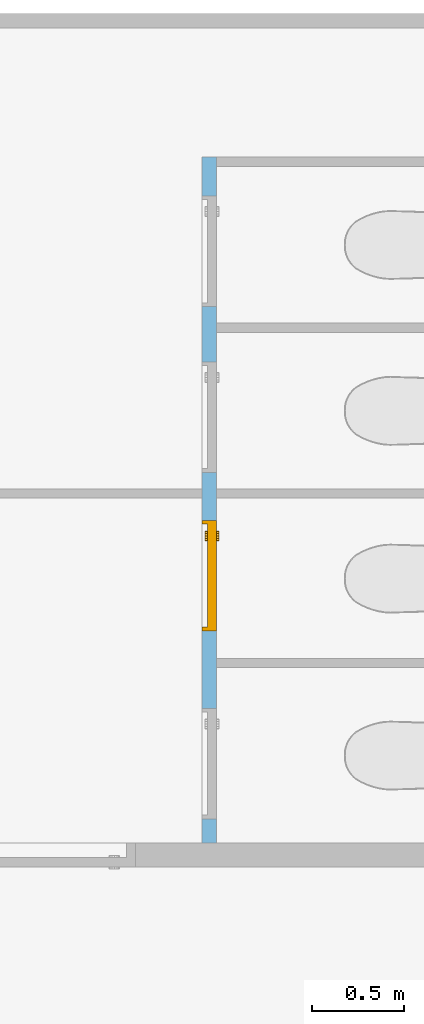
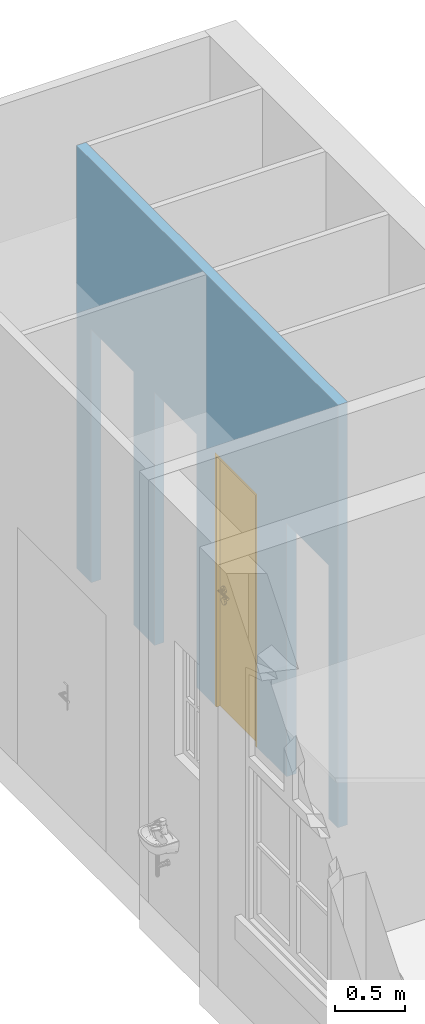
"""IFC4 building model written with IfcOpenShell, lengths in metres."""

from ifc_helpers import new_model, entity, si_unit, converted_unit, derived_unit, frame, frame_2d, origin, origin_with_axes, place, context, subcontext, project, spatial, polyline, rectangle, outline, extrude, faceted_brep, source, transform, mapped, material, layer, layer_set, layer_usage, type_object, element, fill, save


model = new_model("IFC4")

# Units and contexts
model_context = context("Model", 3, precision=1e-05, world=origin())
body_context = subcontext(model_context, "Body", "Model", "MODEL_VIEW")
ifc_project = project(units=[si_unit("LENGTHUNIT", "METRE"), si_unit("AREAUNIT", "SQUARE_METRE"), si_unit("VOLUMEUNIT", "CUBIC_METRE"), si_unit("MASSUNIT", "GRAM", prefix="KILO"), converted_unit("PLANEANGLEUNIT", "DEGREE", entity("IfcPlaneAngleMeasure", 0.0174532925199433), si_unit("PLANEANGLEUNIT", "RADIAN"), dimensions=[0, 0, 0, 0, 0, 0, 0]), derived_unit("THERMALTRANSMITTANCEUNIT", [(si_unit("POWERUNIT", "WATT"), 1), (si_unit("THERMODYNAMICTEMPERATUREUNIT", "KELVIN"), -1), (si_unit("LENGTHUNIT", "METRE"), -2)]), derived_unit("VOLUMETRICFLOWRATEUNIT", [(si_unit("LENGTHUNIT", "METRE"), 3), (converted_unit("TIMEUNIT", "hour", entity("IfcTimeMeasure", 3600.0), si_unit("TIMEUNIT", "SECOND"), dimensions=[0, 0, 1, 0, 0, 0, 0]), -1), (si_unit("LENGTHUNIT", "METRE"), -1)])], contexts=[model_context])

# Building, storeys
building_placement = place(None, origin())
building = spatial("IfcBuilding", under=ifc_project, at=building_placement, Name="Bestandsgebäude A - Sporthalle / Wohnhaus (TB 100-499)   ANPASSEN !!!", CompositionType="ELEMENT")
storey_1_placement = place(building_placement, origin())
storey_1 = spatial("IfcBuildingStorey", under=building, at=storey_1_placement, Name="Geb. A Erdgeschoss (TB 200-249)", CompositionType="ELEMENT", Elevation=0.0)
storey_2_placement = place(storey_1_placement, origin())
storey_2 = spatial("IfcBuildingStorey", under=storey_1, at=storey_2_placement, Name="Architektur (TB 200-209)", CompositionType="PARTIAL")

# Wall, openings, door
ifc_material = material(Name="masonry")
ifc_layer = layer(ifc_material, 0.08)
ifc_layer_set = layer_set([ifc_layer])
ifc_layer_usage = layer_usage(ifc_layer_set, "AXIS2", "POSITIVE", 0.0)
wall_placement = place(storey_2_placement, frame((-1.75999999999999, 20.98, 0.0), z_axis=(0.0, 0.0, 1.0), x_axis=(0.0, -1.0, 0.0)))
wall = element("IfcWall", 1, at=wall_placement, inside=storey_2, material=ifc_layer_usage, Name="masonry load-bearing", PredefinedType="USERDEFINED", context=body_context, shape_type="SweptSolid", body=[
    extrude(rectangle(XDim=3.72000000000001, YDim=0.08, at=frame_2d((1.86, 0.04), x_axis=(1.0, 0.0))), origin_with_axes(), (0.0, 0.0, 1.0), 3.67),
])
opening_1_placement = place(wall_placement, frame((0.210000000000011, 0.0, 0.0), z_axis=(0.0, 1.0, 0.0), x_axis=(0.0, 0.0, 1.0)))
element("IfcOpeningElement", 2, at=opening_1_placement, cuts=wall, Name="Door opening", PredefinedType="OPENING", context=body_context, shape_type="SweptSolid", body=[
    extrude(outline(polyline([(2.2, 0.6), (2.2, 0.0), (0.0, 0.0), (0.0, 0.6), (2.2, 0.6)])), origin_with_axes(), (0.0, 0.0, 1.0), 0.08),
])
opening_2_placement = place(wall_placement, frame((1.11000000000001, 0.0, 0.0), z_axis=(0.0, 1.0, 0.0), x_axis=(0.0, 0.0, 1.0)))
element("IfcOpeningElement", 3, at=opening_2_placement, cuts=wall, Name="Door opening", PredefinedType="OPENING", context=body_context, shape_type="SweptSolid", body=[
    extrude(outline(polyline([(2.2, 0.6), (2.2, 0.0), (0.0, 0.0), (0.0, 0.6), (2.2, 0.6)])), origin_with_axes(), (0.0, 0.0, 1.0), 0.08),
])
opening_3_placement = place(wall_placement, frame((2.99000000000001, 0.0, 0.0), z_axis=(0.0, 1.0, 0.0), x_axis=(0.0, 0.0, 1.0)))
element("IfcOpeningElement", 4, at=opening_3_placement, cuts=wall, Name="Door opening", PredefinedType="OPENING", context=body_context, shape_type="SweptSolid", body=[
    extrude(outline(polyline([(2.2, 0.6), (2.2, 0.0), (0.0, 0.0), (0.0, 0.6), (2.2, 0.6)])), origin_with_axes(), (0.0, 0.0, 1.0), 0.08),
])
opening_4_placement = place(wall_placement, frame((1.97000000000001, 0.0, 0.0), z_axis=(0.0, 1.0, 0.0), x_axis=(0.0, 0.0, 1.0)))
opening_4 = element("IfcOpeningElement", 5, at=opening_4_placement, cuts=wall, Name="Door opening", PredefinedType="OPENING", context=body_context, shape_type="SweptSolid", body=[
    extrude(outline(polyline([(2.2, 0.6), (2.2, 0.0), (0.0, 0.0), (0.0, 0.6), (2.2, 0.6)])), origin_with_axes(), (0.0, 0.0, 1.0), 0.08),
])
door_type = type_object("IfcDoorType", Name="door", OperationType="SINGLE_SWING_RIGHT", ParameterTakesPrecedence=False, PredefinedType="DOOR")
shared_shape = source(origin_with_axes(), body_context, "Body", "Brep", [
    faceted_brep([(0.0, 0.0800000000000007, 2.2), (0.0, 0.0800000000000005, 0.0), (0.0200000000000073, 0.0800000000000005, 0.0), (0.0200000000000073, 0.0800000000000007, 2.2), (0.0, 0.0, 0.0), (0.0, 0.0, 2.2), (0.0200000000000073, 0.0, 2.2), (0.0200000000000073, 0.0, 0.0)], [[[0, 1, 2, 3]], [[4, 5, 6, 7]], [[1, 0, 5, 4]], [[2, 1, 4, 7]], [[3, 2, 7, 6]], [[0, 3, 6, 5]]], orient=[[False], [False], [False], [False], [False], [False]]),
    faceted_brep([(0.580000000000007, 0.0800000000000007, 2.2), (0.580000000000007, 0.0800000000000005, 0.0), (0.600000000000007, 0.0800000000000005, 0.0), (0.600000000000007, 0.0800000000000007, 2.2), (0.580000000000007, 0.0, 0.0), (0.580000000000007, 0.0, 2.2), (0.600000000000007, 0.0, 2.2), (0.600000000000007, 0.0, 0.0)], [[[0, 1, 2, 3]], [[4, 5, 6, 7]], [[1, 0, 5, 4]], [[2, 1, 4, 7]], [[3, 2, 7, 6]], [[0, 3, 6, 5]]], orient=[[False], [False], [False], [False], [False], [False]]),
    faceted_brep([(0.0200000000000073, 0.0800000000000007, 2.2), (0.0200000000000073, 0.0800000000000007, 2.18), (0.580000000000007, 0.0800000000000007, 2.18), (0.580000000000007, 0.0800000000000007, 2.2), (0.0200000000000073, 0.0, 2.18), (0.0200000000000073, 0.0, 2.2), (0.580000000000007, 0.0, 2.2), (0.580000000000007, 0.0, 2.18)], [[[0, 1, 2, 3]], [[4, 5, 6, 7]], [[1, 0, 5, 4]], [[2, 1, 4, 7]], [[3, 2, 7, 6]], [[0, 3, 6, 5]]], orient=[[False], [False], [False], [False], [False], [False]]),
    faceted_brep([(0.0200000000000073, 0.0800000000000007, 2.18), (0.0200000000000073, 0.0800000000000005, 0.0), (0.580000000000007, 0.0800000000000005, 0.0), (0.580000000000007, 0.0800000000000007, 2.18), (0.0200000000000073, 0.0300000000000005, 0.0), (0.0200000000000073, 0.0300000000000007, 2.18), (0.580000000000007, 0.0300000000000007, 2.18), (0.580000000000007, 0.0300000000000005, 0.0)], [[[0, 1, 2, 3]], [[4, 5, 6, 7]], [[1, 0, 5, 4]], [[2, 1, 4, 7]], [[3, 2, 7, 6]], [[0, 3, 6, 5]]], orient=[[False], [False], [False], [False], [False], [False]]),
    faceted_brep([(0.108815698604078, 0.0300000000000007, 0.93625), (0.112500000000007, 0.0300000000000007, 0.95), (0.108815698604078, 0.0300000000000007, 0.96375), (0.0987500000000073, 0.0300000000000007, 0.973815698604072), (0.0850000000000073, 0.0300000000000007, 0.9775), (0.0712500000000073, 0.0300000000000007, 0.973815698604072), (0.0611843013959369, 0.0300000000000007, 0.96375), (0.0575000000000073, 0.0300000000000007, 0.95), (0.0611843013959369, 0.0300000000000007, 0.93625), (0.0712500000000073, 0.0300000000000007, 0.926184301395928), (0.0850000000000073, 0.0300000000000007, 0.9225), (0.0987500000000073, 0.0300000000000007, 0.926184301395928), (0.112500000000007, 0.0175000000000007, 0.95), (0.108815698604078, 0.0175000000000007, 0.93625), (0.0987500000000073, 0.0175000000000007, 0.926184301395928), (0.0850000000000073, 0.0175000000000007, 0.9225), (0.0712500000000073, 0.0175000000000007, 0.926184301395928), (0.0611843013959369, 0.0175000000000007, 0.93625), (0.0575000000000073, 0.0175000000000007, 0.95), (0.0611843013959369, 0.0175000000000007, 0.96375), (0.0712500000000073, 0.0175000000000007, 0.973815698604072), (0.0850000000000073, 0.0175000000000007, 0.9775), (0.0987500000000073, 0.0175000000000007, 0.973815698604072), (0.108815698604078, 0.0175000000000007, 0.96375)], [[[0, 1, 2, 3, 4, 5, 6, 7, 8, 9, 10, 11]], [[12, 13, 14, 15, 16, 17, 18, 19, 20, 21, 22, 23]], [[1, 0, 13, 12]], [[2, 1, 12, 23]], [[3, 2, 23, 22]], [[4, 3, 22, 21]], [[5, 4, 21, 20]], [[6, 5, 20, 19]], [[7, 6, 19, 18]], [[8, 7, 18, 17]], [[9, 8, 17, 16]], [[10, 9, 16, 15]], [[11, 10, 15, 14]], [[0, 11, 14, 13]]], orient=[[False], [False], [False], [False], [False], [False], [False], [False], [False], [False], [False], [False], [False], [False]]),
    faceted_brep([(0.108815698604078, 0.0300000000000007, 1.03625), (0.112500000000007, 0.0300000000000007, 1.05), (0.108815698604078, 0.0300000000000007, 1.06375), (0.0987500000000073, 0.0300000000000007, 1.07381569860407), (0.0850000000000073, 0.0300000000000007, 1.0775), (0.0712500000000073, 0.0300000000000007, 1.07381569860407), (0.0611843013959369, 0.0300000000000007, 1.06375), (0.0575000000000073, 0.0300000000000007, 1.05), (0.0611843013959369, 0.0300000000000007, 1.03625), (0.0712500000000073, 0.0300000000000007, 1.02618430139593), (0.0850000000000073, 0.0300000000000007, 1.0225), (0.0987500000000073, 0.0300000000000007, 1.02618430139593), (0.112500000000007, 0.0175000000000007, 1.05), (0.108815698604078, 0.0175000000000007, 1.03625), (0.0987500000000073, 0.0175000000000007, 1.02618430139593), (0.0850000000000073, 0.0175000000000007, 1.0225), (0.0712500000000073, 0.0175000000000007, 1.02618430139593), (0.0611843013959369, 0.0175000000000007, 1.03625), (0.0575000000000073, 0.0175000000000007, 1.05), (0.0611843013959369, 0.0175000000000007, 1.06375), (0.0712500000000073, 0.0175000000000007, 1.07381569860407), (0.0850000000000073, 0.0175000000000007, 1.0775), (0.0987500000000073, 0.0175000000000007, 1.07381569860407), (0.108815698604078, 0.0175000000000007, 1.06375)], [[[0, 1, 2, 3, 4, 5, 6, 7, 8, 9, 10, 11]], [[12, 13, 14, 15, 16, 17, 18, 19, 20, 21, 22, 23]], [[1, 0, 13, 12]], [[2, 1, 12, 23]], [[3, 2, 23, 22]], [[4, 3, 22, 21]], [[5, 4, 21, 20]], [[6, 5, 20, 19]], [[7, 6, 19, 18]], [[8, 7, 18, 17]], [[9, 8, 17, 16]], [[10, 9, 16, 15]], [[11, 10, 15, 14]], [[0, 11, 14, 13]]], orient=[[False], [False], [False], [False], [False], [False], [False], [False], [False], [False], [False], [False], [False], [False]]),
    faceted_brep([(0.0850000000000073, 0.0300000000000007, 1.06), (0.0800000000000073, 0.0300000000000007, 1.05866025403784), (0.0763397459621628, 0.0300000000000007, 1.055), (0.0750000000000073, 0.0300000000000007, 1.05), (0.0763397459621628, 0.0300000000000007, 1.045), (0.0800000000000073, 0.0300000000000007, 1.04133974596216), (0.0850000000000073, 0.0300000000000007, 1.04), (0.0900000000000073, 0.0300000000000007, 1.04133974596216), (0.0936602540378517, 0.0300000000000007, 1.045), (0.0950000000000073, 0.0300000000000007, 1.05), (0.0936602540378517, 0.0300000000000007, 1.055), (0.0900000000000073, 0.0300000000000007, 1.05866025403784), (0.0850000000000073, -0.00999999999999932, 1.06), (0.0800000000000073, -0.0149999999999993, 1.05866025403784), (0.0763397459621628, -0.0186602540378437, 1.055), (0.0750000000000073, -0.0199999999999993, 1.05), (0.0763397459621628, -0.0186602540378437, 1.045), (0.0800000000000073, -0.0149999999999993, 1.04133974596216), (0.0850000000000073, -0.00999999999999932, 1.04), (0.0900000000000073, -0.00499999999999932, 1.04133974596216), (0.0936602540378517, -0.00133974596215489, 1.045), (0.0950000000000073, 0.0, 1.05), (0.0936602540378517, -0.00133974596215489, 1.055), (0.0900000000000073, -0.00499999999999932, 1.05866025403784), (0.200000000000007, -0.00999999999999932, 1.06), (0.200000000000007, -0.00499999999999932, 1.05866025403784), (0.200000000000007, -0.00133974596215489, 1.055), (0.200000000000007, 0.0, 1.05), (0.200000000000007, -0.00133974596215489, 1.045), (0.200000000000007, -0.00499999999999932, 1.04133974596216), (0.200000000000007, -0.00999999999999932, 1.04), (0.200000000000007, -0.0149999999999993, 1.04133974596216), (0.200000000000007, -0.0186602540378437, 1.045), (0.200000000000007, -0.0199999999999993, 1.05), (0.200000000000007, -0.0186602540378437, 1.055), (0.200000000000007, -0.0149999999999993, 1.05866025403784)], [[[0, 1, 2, 3, 4, 5, 6, 7, 8, 9, 10, 11]], [[0, 12, 13, 1]], [[1, 13, 14, 2]], [[2, 14, 15, 3]], [[3, 15, 16, 4]], [[4, 16, 17, 5]], [[5, 17, 18, 6]], [[6, 18, 19, 7]], [[7, 19, 20, 8]], [[8, 20, 21, 9]], [[9, 21, 22, 10]], [[10, 22, 23, 11]], [[11, 23, 12, 0]], [[24, 25, 26, 27, 28, 29, 30, 31, 32, 33, 34, 35]], [[12, 24, 35, 13]], [[13, 35, 34, 14]], [[14, 34, 33, 15]], [[15, 33, 32, 16]], [[16, 32, 31, 17]], [[17, 31, 30, 18]], [[18, 30, 29, 19]], [[19, 29, 28, 20]], [[20, 28, 27, 21]], [[21, 27, 26, 22]], [[22, 26, 25, 23]], [[23, 25, 24, 12]]], orient=[[False], [False], [False], [False], [False], [False], [False], [False], [False], [False], [False], [False], [False], [False], [False], [False], [False], [False], [False], [False], [False], [False], [False], [False], [False], [False]]),
    faceted_brep([(0.108815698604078, 0.0800000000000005, 0.93625), (0.0987500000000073, 0.0800000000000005, 0.926184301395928), (0.0850000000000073, 0.0800000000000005, 0.9225), (0.0712500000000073, 0.0800000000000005, 0.926184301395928), (0.0611843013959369, 0.0800000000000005, 0.93625), (0.0575000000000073, 0.0800000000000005, 0.95), (0.0611843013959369, 0.0800000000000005, 0.96375), (0.0712500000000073, 0.0800000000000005, 0.973815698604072), (0.0850000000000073, 0.0800000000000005, 0.9775), (0.0987500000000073, 0.0800000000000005, 0.973815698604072), (0.108815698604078, 0.0800000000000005, 0.96375), (0.112500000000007, 0.0800000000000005, 0.95), (0.112500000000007, 0.0925000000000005, 0.95), (0.108815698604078, 0.0925000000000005, 0.96375), (0.0987500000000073, 0.0925000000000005, 0.973815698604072), (0.0850000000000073, 0.0925000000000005, 0.9775), (0.0712500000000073, 0.0925000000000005, 0.973815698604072), (0.0611843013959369, 0.0925000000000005, 0.96375), (0.0575000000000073, 0.0925000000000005, 0.95), (0.0611843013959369, 0.0925000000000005, 0.93625), (0.0712500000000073, 0.0925000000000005, 0.926184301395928), (0.0850000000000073, 0.0925000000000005, 0.9225), (0.0987500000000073, 0.0925000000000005, 0.926184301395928), (0.108815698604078, 0.0925000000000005, 0.93625)], [[[0, 1, 2, 3, 4, 5, 6, 7, 8, 9, 10, 11]], [[12, 13, 14, 15, 16, 17, 18, 19, 20, 21, 22, 23]], [[11, 12, 23, 0]], [[10, 13, 12, 11]], [[9, 14, 13, 10]], [[8, 15, 14, 9]], [[7, 16, 15, 8]], [[6, 17, 16, 7]], [[5, 18, 17, 6]], [[4, 19, 18, 5]], [[3, 20, 19, 4]], [[2, 21, 20, 3]], [[1, 22, 21, 2]], [[0, 23, 22, 1]]], orient=[[False], [False], [False], [False], [False], [False], [False], [False], [False], [False], [False], [False], [False], [False]]),
    faceted_brep([(0.108815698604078, 0.0800000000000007, 1.03625), (0.0987500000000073, 0.0800000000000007, 1.02618430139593), (0.0850000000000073, 0.0800000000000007, 1.0225), (0.0712500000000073, 0.0800000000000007, 1.02618430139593), (0.0611843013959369, 0.0800000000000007, 1.03625), (0.0575000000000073, 0.0800000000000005, 1.05), (0.0611843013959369, 0.0800000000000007, 1.06375), (0.0712500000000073, 0.0800000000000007, 1.07381569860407), (0.0850000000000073, 0.0800000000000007, 1.0775), (0.0987500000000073, 0.0800000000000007, 1.07381569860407), (0.108815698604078, 0.0800000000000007, 1.06375), (0.112500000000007, 0.0800000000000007, 1.05), (0.112500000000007, 0.0925000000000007, 1.05), (0.108815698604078, 0.0925000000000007, 1.06375), (0.0987500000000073, 0.0925000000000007, 1.07381569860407), (0.0850000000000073, 0.0925000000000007, 1.0775), (0.0712500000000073, 0.0925000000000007, 1.07381569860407), (0.0611843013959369, 0.0925000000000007, 1.06375), (0.0575000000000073, 0.0925000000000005, 1.05), (0.0611843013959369, 0.0925000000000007, 1.03625), (0.0712500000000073, 0.0925000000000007, 1.02618430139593), (0.0850000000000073, 0.0925000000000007, 1.0225), (0.0987500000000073, 0.0925000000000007, 1.02618430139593), (0.108815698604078, 0.0925000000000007, 1.03625)], [[[0, 1, 2, 3, 4, 5, 6, 7, 8, 9, 10, 11]], [[12, 13, 14, 15, 16, 17, 18, 19, 20, 21, 22, 23]], [[11, 12, 23, 0]], [[10, 13, 12, 11]], [[9, 14, 13, 10]], [[8, 15, 14, 9]], [[7, 16, 15, 8]], [[6, 17, 16, 7]], [[5, 18, 17, 6]], [[4, 19, 18, 5]], [[3, 20, 19, 4]], [[2, 21, 20, 3]], [[1, 22, 21, 2]], [[0, 23, 22, 1]]], orient=[[False], [False], [False], [False], [False], [False], [False], [False], [False], [False], [False], [False], [False], [False]]),
    faceted_brep([(0.0850000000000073, 0.0800000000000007, 1.06), (0.0900000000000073, 0.0800000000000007, 1.05866025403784), (0.0936602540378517, 0.0800000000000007, 1.055), (0.0950000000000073, 0.0800000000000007, 1.05), (0.0936602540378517, 0.0800000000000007, 1.045), (0.0900000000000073, 0.0800000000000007, 1.04133974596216), (0.0850000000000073, 0.0800000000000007, 1.04), (0.0800000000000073, 0.0800000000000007, 1.04133974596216), (0.0763397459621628, 0.0800000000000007, 1.045), (0.0750000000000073, 0.0800000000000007, 1.05), (0.0763397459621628, 0.0800000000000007, 1.055), (0.0800000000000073, 0.0800000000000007, 1.05866025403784), (0.0800000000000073, 0.125, 1.05866025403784), (0.0850000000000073, 0.12, 1.06), (0.0763397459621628, 0.128660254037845, 1.055), (0.0750000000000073, 0.13, 1.05), (0.0763397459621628, 0.128660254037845, 1.045), (0.0800000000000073, 0.125, 1.04133974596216), (0.0850000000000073, 0.12, 1.04), (0.0900000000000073, 0.115, 1.04133974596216), (0.0936602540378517, 0.111339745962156, 1.045), (0.0950000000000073, 0.11, 1.05), (0.0936602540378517, 0.111339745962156, 1.055), (0.0900000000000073, 0.115, 1.05866025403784), (0.200000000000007, 0.120000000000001, 1.06), (0.200000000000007, 0.125000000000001, 1.05866025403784), (0.200000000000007, 0.128660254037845, 1.055), (0.200000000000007, 0.13, 1.05), (0.200000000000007, 0.128660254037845, 1.045), (0.200000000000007, 0.125000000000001, 1.04133974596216), (0.200000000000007, 0.120000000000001, 1.04), (0.200000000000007, 0.115000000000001, 1.04133974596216), (0.200000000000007, 0.111339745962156, 1.045), (0.200000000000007, 0.110000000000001, 1.05), (0.200000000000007, 0.111339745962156, 1.055), (0.200000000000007, 0.115000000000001, 1.05866025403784)], [[[0, 1, 2, 3, 4, 5, 6, 7, 8, 9, 10, 11]], [[0, 11, 12, 13]], [[11, 10, 14, 12]], [[10, 9, 15, 14]], [[9, 8, 16, 15]], [[8, 7, 17, 16]], [[7, 6, 18, 17]], [[6, 5, 19, 18]], [[5, 4, 20, 19]], [[4, 3, 21, 20]], [[3, 2, 22, 21]], [[2, 1, 23, 22]], [[1, 0, 13, 23]], [[24, 25, 26, 27, 28, 29, 30, 31, 32, 33, 34, 35]], [[13, 12, 25, 24]], [[12, 14, 26, 25]], [[14, 15, 27, 26]], [[15, 16, 28, 27]], [[16, 17, 29, 28]], [[17, 18, 30, 29]], [[18, 19, 31, 30]], [[19, 20, 32, 31]], [[20, 21, 33, 32]], [[21, 22, 34, 33]], [[22, 23, 35, 34]], [[23, 13, 24, 35]]], orient=[[False], [False], [False], [False], [False], [False], [False], [False], [False], [False], [False], [False], [False], [False], [False], [False], [False], [False], [False], [False], [False], [False], [False], [False], [False], [False]]),
])
door_placement = place(opening_4_placement, frame((0.0, 0.0, 0.0), z_axis=(1.0, 0.0, 0.0), x_axis=(0.0, 1.0, 0.0)))
door = element("IfcDoor", 6, at=door_placement, inside=storey_2, type_object=door_type, Name="door", OverallHeight=2.2, OverallWidth=0.6, PredefinedType="DOOR", context=body_context, shape_type="MappedRepresentation", body=[
    mapped(shared_shape, transform((0.0, 0.0, 0.0), x_axis=(1.0, 0.0, 0.0), y_axis=(0.0, 1.0, 0.0), z_axis=(0.0, 0.0, 1.0), scale=1.0)),
])
fill(opening_4, door)

save(model, "model.ifc")
